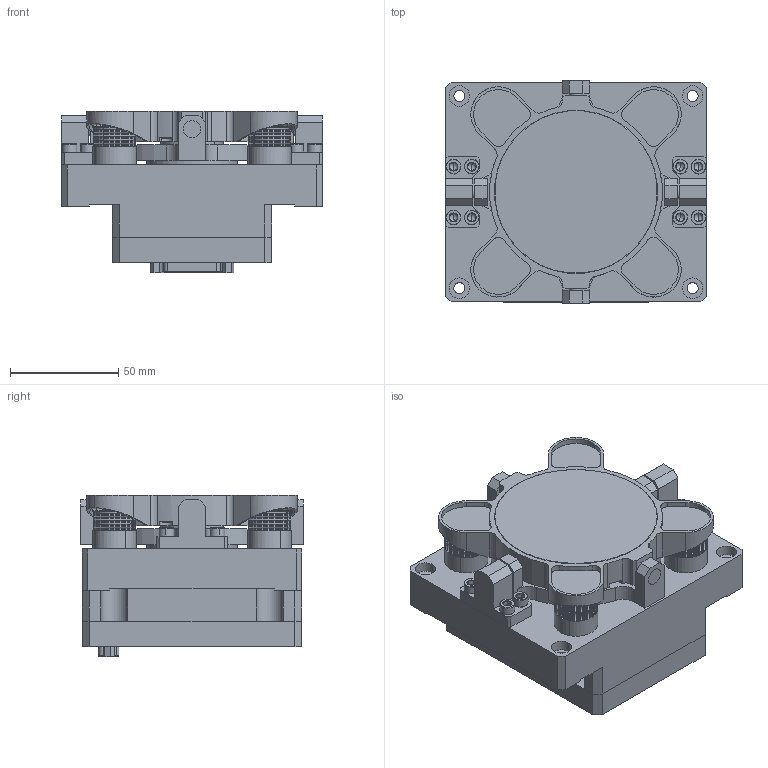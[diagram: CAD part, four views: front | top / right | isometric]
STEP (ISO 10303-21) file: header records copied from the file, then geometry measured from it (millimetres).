
FILE_DESCRIPTION (( 'STEP AP203' ), '1' );
FILE_NAME ('NS1001S REV NC, SHORT TRAVEL 3 INCH THICK MIRROR FSM.STEP', '2021-10-25T16:35:43', ( '' ), ( '' ), 'SwSTEP 2.0', 'SolidWorks 2017', '' );
FILE_SCHEMA (( 'CONFIG_CONTROL_DESIGN' ));
Length unit declared in the file: inch
Products named in the file (1): NS1001S REV NC, SHORT TRAVEL 3 INCH THICK MIRROR FSM
Bounding box: 120.65 x 102.92 x 74.78 mm (x, y, z)
Volume: 577851.9 mm3; surface area: 93369.1 mm2
Topology: 53 solids, 53 shells, 1024 faces, 2351 edges, 1408 vertices
Faces by surface type: plane 397, torus 269, cylinder 264, cone 78, sphere 16
Entity records: 29509 total; most frequent: DIRECTION 5566, CARTESIAN_POINT 5366, ORIENTED_EDGE 4702, EDGE_CURVE 2351, AXIS2_PLACEMENT_3D 2272, VERTEX_POINT 1408, CIRCLE 1247, EDGE_LOOP 1127
